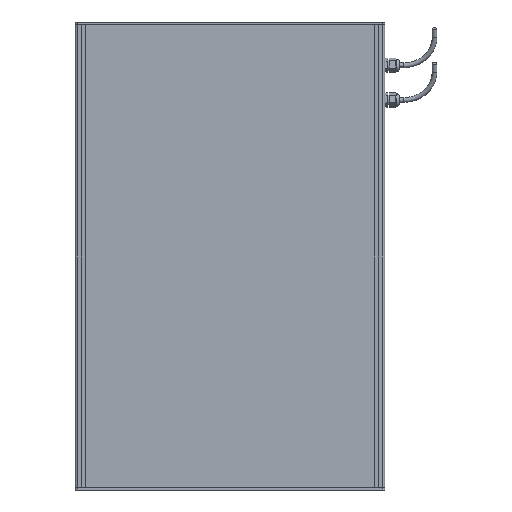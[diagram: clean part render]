
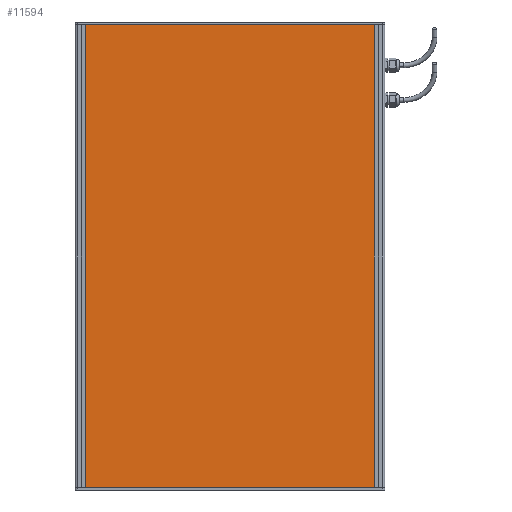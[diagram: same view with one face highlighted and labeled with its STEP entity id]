
A CAD part, front view. The second image highlights one B-rep face of the part: STEP entity #11594.
In plain terms, the highlighted planar face has unit normal (0, -1, 0) as drawn and (0, 0, 1) by its records, which use the part's own axes.
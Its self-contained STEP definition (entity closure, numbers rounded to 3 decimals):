
#248 = CARTESIAN_POINT ( 'NONE',  ( 0., 0., 0. ) ) ;
#842 = ORIENTED_EDGE ( 'NONE', *, *, #905, .T. ) ;
#905 = EDGE_CURVE ( 'NONE', #1309, #1514, #14570, .T. ) ;
#1159 = LINE ( 'NONE', #6192, #5379 ) ;
#1309 = VERTEX_POINT ( 'NONE', #14804 ) ;
#1360 = CARTESIAN_POINT ( 'NONE',  ( -9., -800., 0. ) ) ;
#1514 = VERTEX_POINT ( 'NONE', #6963 ) ;
#1722 = VECTOR ( 'NONE', #6309, 1000. ) ;
#2203 = ORIENTED_EDGE ( 'NONE', *, *, #7806, .T. ) ;
#3120 = CARTESIAN_POINT ( 'NONE',  ( -9., 0., 0. ) ) ;
#3833 = CARTESIAN_POINT ( 'NONE',  ( -9., 0., 0. ) ) ;
#3876 = DIRECTION ( 'NONE',  ( -1., 0., 0. ) ) ;
#4118 = ORIENTED_EDGE ( 'NONE', *, *, #13633, .T. ) ;
#4698 = VERTEX_POINT ( 'NONE', #10327 ) ;
#4901 = LINE ( 'NONE', #3833, #12831 ) ;
#5379 = VECTOR ( 'NONE', #6438, 1000. ) ;
#5743 = EDGE_CURVE ( 'NONE', #4698, #13800, #1159, .T. ) ;
#6192 = CARTESIAN_POINT ( 'NONE',  ( -509., 0., 0. ) ) ;
#6309 = DIRECTION ( 'NONE',  ( 1., 0., 0. ) ) ;
#6438 = DIRECTION ( 'NONE',  ( 0., -1., 0. ) ) ;
#6919 = DIRECTION ( 'NONE',  ( 0., 1., 0. ) ) ;
#6963 = CARTESIAN_POINT ( 'NONE',  ( -9., 0., 0. ) ) ;
#7806 = EDGE_CURVE ( 'NONE', #1514, #4698, #4901, .T. ) ;
#8153 = EDGE_LOOP ( 'NONE', ( #842, #2203, #12642, #4118 ) ) ;
#10327 = CARTESIAN_POINT ( 'NONE',  ( -509., 0., 0. ) ) ;
#11576 = LINE ( 'NONE', #1360, #1722 ) ;
#11594 = ADVANCED_FACE ( 'NONE', ( #14092 ), #12861, .F. ) ;
#12642 = ORIENTED_EDGE ( 'NONE', *, *, #5743, .T. ) ;
#12778 = DIRECTION ( 'NONE',  ( 0., 0., -1. ) ) ;
#12831 = VECTOR ( 'NONE', #13799, 1000. ) ;
#12861 = PLANE ( 'NONE',  #14318 ) ;
#13633 = EDGE_CURVE ( 'NONE', #13800, #1309, #11576, .T. ) ;
#13799 = DIRECTION ( 'NONE',  ( -1., 0., 0. ) ) ;
#13800 = VERTEX_POINT ( 'NONE', #15192 ) ;
#14092 = FACE_OUTER_BOUND ( 'NONE', #8153, .T. ) ;
#14318 = AXIS2_PLACEMENT_3D ( 'NONE', #248, #12778, #3876 ) ;
#14570 = LINE ( 'NONE', #3120, #15310 ) ;
#14804 = CARTESIAN_POINT ( 'NONE',  ( -9., -800., 0. ) ) ;
#15192 = CARTESIAN_POINT ( 'NONE',  ( -509., -800., 0. ) ) ;
#15310 = VECTOR ( 'NONE', #6919, 1000. ) ;
